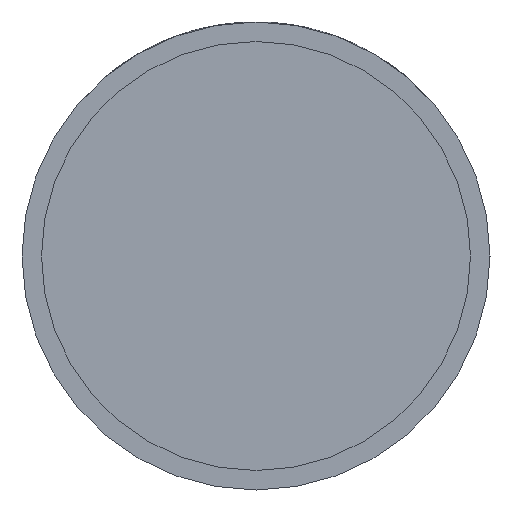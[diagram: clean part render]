
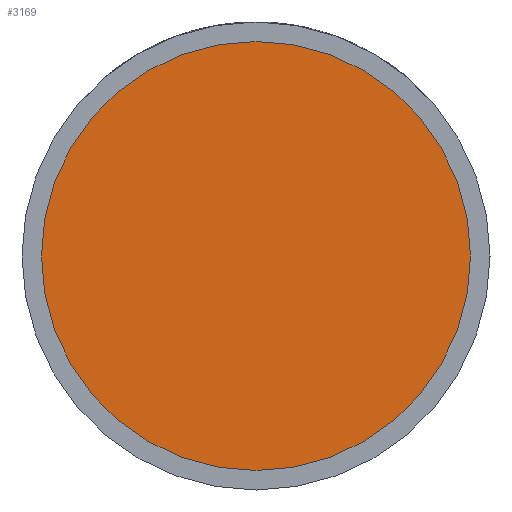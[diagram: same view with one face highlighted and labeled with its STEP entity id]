
A CAD part, front view. The second image highlights one B-rep face of the part: STEP entity #3169.
In plain terms, the highlighted planar face has unit normal (0, -1, 0).
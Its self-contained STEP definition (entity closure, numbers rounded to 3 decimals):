
#98 = CARTESIAN_POINT ( 'NONE',  ( 0., -17.5, 0. ) ) ;
#236 = EDGE_LOOP ( 'NONE', ( #3003, #2024 ) ) ;
#454 = DIRECTION ( 'NONE',  ( 1., 0., 0. ) ) ;
#464 = VERTEX_POINT ( 'NONE', #3982 ) ;
#731 = DIRECTION ( 'NONE',  ( 1., 0., 0. ) ) ;
#860 = EDGE_CURVE ( 'NONE', #1396, #464, #1208, .T. ) ;
#917 = PLANE ( 'NONE',  #2648 ) ;
#1095 = DIRECTION ( 'NONE',  ( 0., -1., 0. ) ) ;
#1203 = AXIS2_PLACEMENT_3D ( 'NONE', #3384, #1455, #731 ) ;
#1208 = CIRCLE ( 'NONE', #2448, 22. ) ;
#1396 = VERTEX_POINT ( 'NONE', #2823 ) ;
#1405 = DIRECTION ( 'NONE',  ( 1., 0., 0. ) ) ;
#1455 = DIRECTION ( 'NONE',  ( 0., -1., 0. ) ) ;
#1895 = CIRCLE ( 'NONE', #1203, 22. ) ;
#1907 = CARTESIAN_POINT ( 'NONE',  ( 22., -17.5, 0. ) ) ;
#2024 = ORIENTED_EDGE ( 'NONE', *, *, #860, .T. ) ;
#2339 = EDGE_CURVE ( 'NONE', #464, #1396, #1895, .T. ) ;
#2380 = DIRECTION ( 'NONE',  ( 0., -1., 0. ) ) ;
#2448 = AXIS2_PLACEMENT_3D ( 'NONE', #98, #1095, #454 ) ;
#2648 = AXIS2_PLACEMENT_3D ( 'NONE', #1907, #2380, #1405 ) ;
#2823 = CARTESIAN_POINT ( 'NONE',  ( -22., -17.5, 0. ) ) ;
#3003 = ORIENTED_EDGE ( 'NONE', *, *, #2339, .T. ) ;
#3169 = ADVANCED_FACE ( 'NONE', ( #3877 ), #917, .T. ) ;
#3384 = CARTESIAN_POINT ( 'NONE',  ( 0., -17.5, 0. ) ) ;
#3877 = FACE_OUTER_BOUND ( 'NONE', #236, .T. ) ;
#3982 = CARTESIAN_POINT ( 'NONE',  ( 22., -17.5, 0. ) ) ;
